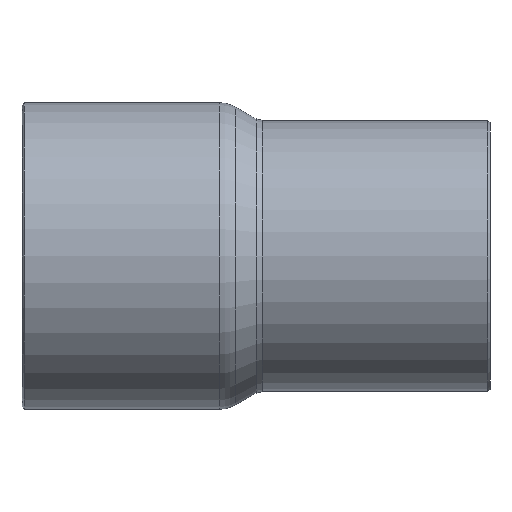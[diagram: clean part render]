
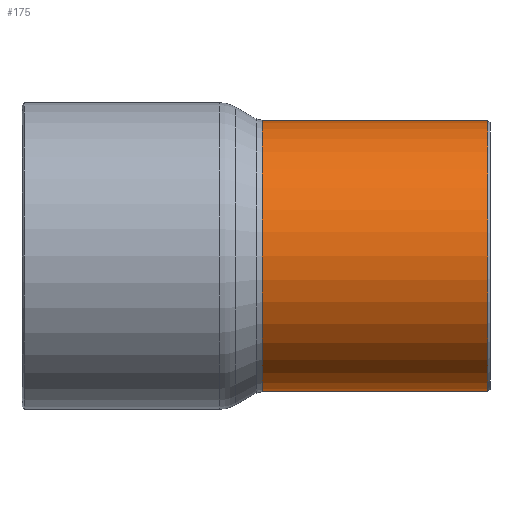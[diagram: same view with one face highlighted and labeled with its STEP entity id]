
A CAD part, front view. The second image highlights one B-rep face of the part: STEP entity #175.
In plain terms, the highlighted cylindrical face has radius 11.115 mm (diameter 22.23 mm), a full revolution.
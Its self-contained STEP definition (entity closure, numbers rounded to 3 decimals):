
#141=CARTESIAN_POINT('',(18.499,11.115,0.));
#142=VERTEX_POINT('',#141);
#143=CARTESIAN_POINT('',(18.499,0.0,0.0));
#144=DIRECTION('',(1.0,0.0,0.0));
#145=DIRECTION('',(0.0,-1.0,0.0));
#146=AXIS2_PLACEMENT_3D('',#143,#144,#145);
#147=CIRCLE('',#146,11.115);
#148=EDGE_CURVE('',#142,#142,#147,.T.);
#156=CARTESIAN_POINT('',(9.35,0.0,0.0));
#157=DIRECTION('',(1.0,0.0,0.0));
#158=DIRECTION('',(0.0,1.0,0.0));
#159=AXIS2_PLACEMENT_3D('',#156,#157,#158);
#160=CYLINDRICAL_SURFACE('',#159,11.115);
#161=CARTESIAN_POINT('',(0.,11.115,0.0));
#162=VERTEX_POINT('',#161);
#163=CARTESIAN_POINT('',(0.0,0.0,0.0));
#164=DIRECTION('',(1.0,0.0,0.0));
#165=DIRECTION('',(0.0,1.0,0.0));
#166=AXIS2_PLACEMENT_3D('',#163,#164,#165);
#167=CIRCLE('',#166,11.115);
#168=EDGE_CURVE('',#162,#162,#167,.T.);
#169=ORIENTED_EDGE('',*,*,#168,.T.);
#170=EDGE_LOOP('',(#169));
#171=FACE_OUTER_BOUND('',#170,.T.);
#172=ORIENTED_EDGE('',*,*,#148,.F.);
#173=EDGE_LOOP('',(#172));
#174=FACE_BOUND('',#173,.T.);
#175=ADVANCED_FACE('',(#171,#174),#160,.T.);
